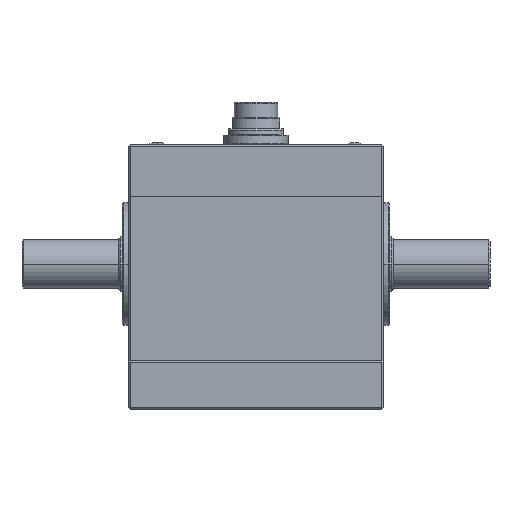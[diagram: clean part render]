
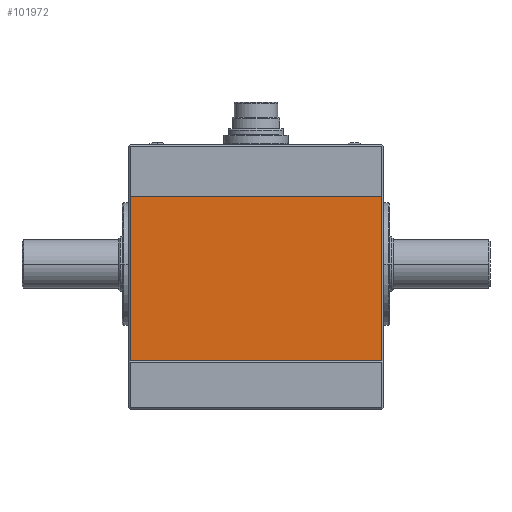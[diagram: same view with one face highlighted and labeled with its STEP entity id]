
A CAD part, top view. The second image highlights one B-rep face of the part: STEP entity #101972.
In plain terms, the highlighted planar face has unit normal (0, 0, 1).
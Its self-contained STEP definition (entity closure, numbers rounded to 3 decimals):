
#282 = LINE ( 'NONE', #169083, #148463 ) ;
#932 = VERTEX_POINT ( 'NONE', #145951 ) ;
#4731 = LINE ( 'NONE', #173516, #27305 ) ;
#10407 = EDGE_LOOP ( 'NONE', ( #84003, #126803, #102775, #74659 ) ) ;
#16432 = CARTESIAN_POINT ( 'NONE',  ( 37.626, 7.697, 21. ) ) ;
#18364 = CARTESIAN_POINT ( 'NONE',  ( -40.374, 7.697, 21. ) ) ;
#19766 = VECTOR ( 'NONE', #21088, 1000. ) ;
#21088 = DIRECTION ( 'NONE',  ( 0., -1., 0. ) ) ;
#26995 = FACE_OUTER_BOUND ( 'NONE', #10407, .T. ) ;
#27305 = VECTOR ( 'NONE', #104864, 1000. ) ;
#28819 = PLANE ( 'NONE',  #156991 ) ;
#42723 = DIRECTION ( 'NONE',  ( 0., -1., 0. ) ) ;
#53465 = EDGE_CURVE ( 'NONE', #138601, #67432, #143614, .T. ) ;
#55735 = CARTESIAN_POINT ( 'NONE',  ( -42.874, 7.697, 21. ) ) ;
#66780 = VERTEX_POINT ( 'NONE', #89888 ) ;
#67432 = VERTEX_POINT ( 'NONE', #109358 ) ;
#74659 = ORIENTED_EDGE ( 'NONE', *, *, #98409, .T. ) ;
#83277 = DIRECTION ( 'NONE',  ( 0., 1., 0. ) ) ;
#84003 = ORIENTED_EDGE ( 'NONE', *, *, #145241, .F. ) ;
#85094 = LINE ( 'NONE', #16432, #167647 ) ;
#89888 = CARTESIAN_POINT ( 'NONE',  ( 37.626, 7.697, 21. ) ) ;
#98409 = EDGE_CURVE ( 'NONE', #932, #66780, #85094, .T. ) ;
#101972 = ADVANCED_FACE ( 'NONE', ( #26995 ), #28819, .F. ) ;
#102775 = ORIENTED_EDGE ( 'NONE', *, *, #163406, .F. ) ;
#104864 = DIRECTION ( 'NONE',  ( 1., 0., 0. ) ) ;
#109358 = CARTESIAN_POINT ( 'NONE',  ( -40.374, -43.303, 21. ) ) ;
#126803 = ORIENTED_EDGE ( 'NONE', *, *, #53465, .T. ) ;
#132427 = CARTESIAN_POINT ( 'NONE',  ( -40.374, -43.303, 21. ) ) ;
#138601 = VERTEX_POINT ( 'NONE', #18364 ) ;
#143614 = LINE ( 'NONE', #132427, #19766 ) ;
#145241 = EDGE_CURVE ( 'NONE', #138601, #66780, #4731, .T. ) ;
#145951 = CARTESIAN_POINT ( 'NONE',  ( 37.626, -43.303, 21. ) ) ;
#148463 = VECTOR ( 'NONE', #154199, 1000. ) ;
#154199 = DIRECTION ( 'NONE',  ( -1., 0., 0. ) ) ;
#154875 = DIRECTION ( 'NONE',  ( 0., 0., -1. ) ) ;
#156991 = AXIS2_PLACEMENT_3D ( 'NONE', #55735, #154875, #42723 ) ;
#163406 = EDGE_CURVE ( 'NONE', #932, #67432, #282, .T. ) ;
#167647 = VECTOR ( 'NONE', #83277, 1000. ) ;
#169083 = CARTESIAN_POINT ( 'NONE',  ( -40.874, -43.303, 21. ) ) ;
#173516 = CARTESIAN_POINT ( 'NONE',  ( -42.874, 7.697, 21. ) ) ;
